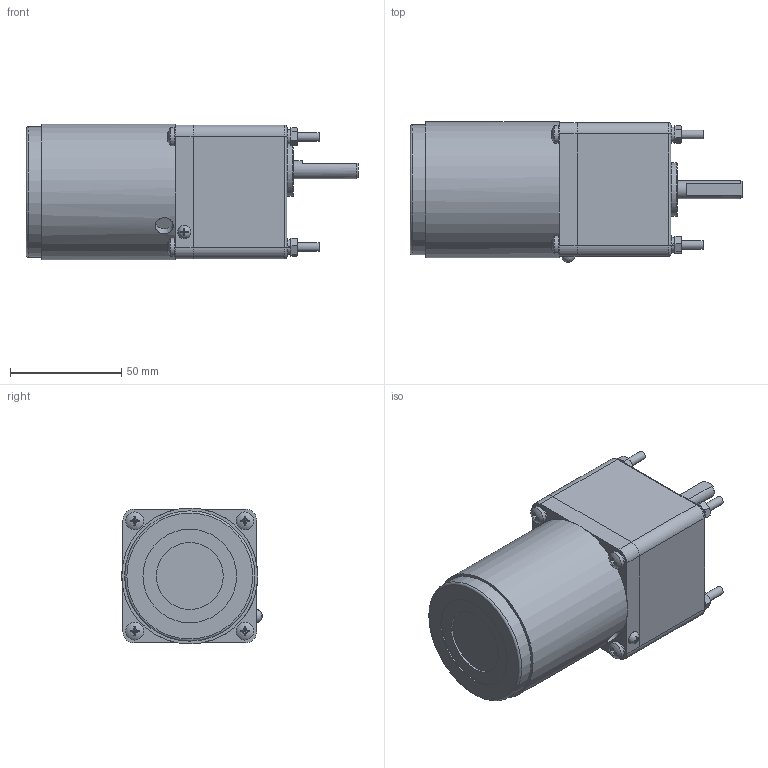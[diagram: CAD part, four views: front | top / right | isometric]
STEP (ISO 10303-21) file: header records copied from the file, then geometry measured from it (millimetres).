
FILE_DESCRIPTION(/* description */ (''),/* implementation_level */ '2;1');
FILE_NAME(/* name */ '60高箱T-6W普通.stp',/* time_stamp */ '2022-10-31T08:31:47+08:00',/* author */ (''),/* organization */ (''),/* preprocessor_version */ 'ST-DEVELOPER v16.7',/* originating_system */ 'SIEMENS PLM Software NX 1899',/* authorisation */ '');
FILE_SCHEMA (('AP203_CONFIGURATION_CONTROLLED_3D_DESIGN_OF_MECHANICAL_PARTS_AND_ASSEMBLIES_MIM_LF { 1 0 10303 403 2 1 2}'));
Length unit declared in the file: millimetre
Products named in the file (1): yf186188FEB6lc2p
Bounding box: 149 x 62.99 x 61 mm (x, y, z)
Volume: 372646 mm3; surface area: 49321.2 mm2
Topology: 22 solids, 23 shells, 372 faces, 854 edges, 550 vertices
Faces by surface type: plane 142, bspline 80, cylinder 72, cone 61, torus 11, sphere 6
Full cylindrical faces by diameter (mm): 3 x1, 3.432 x4, 3.838 x4, 4 x4, 4.3 x8, 5.5 x4, 6 x5, 8 x13, 8.2 x1, 24 x1, 30 x1, 42 x1, 52.6 x1, 57 x2, 58.5 x1, 61 x1
Entity records: 11736 total; most frequent: CARTESIAN_POINT 3135, ORIENTED_EDGE 1502, DIRECTION 1314, EDGE_CURVE 751, AXIS2_PLACEMENT_3D 583, VERTEX_POINT 520, EDGE_LOOP 507, ADVANCED_FACE 372
